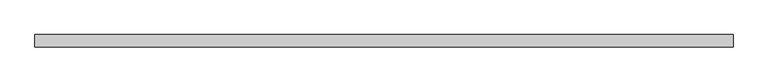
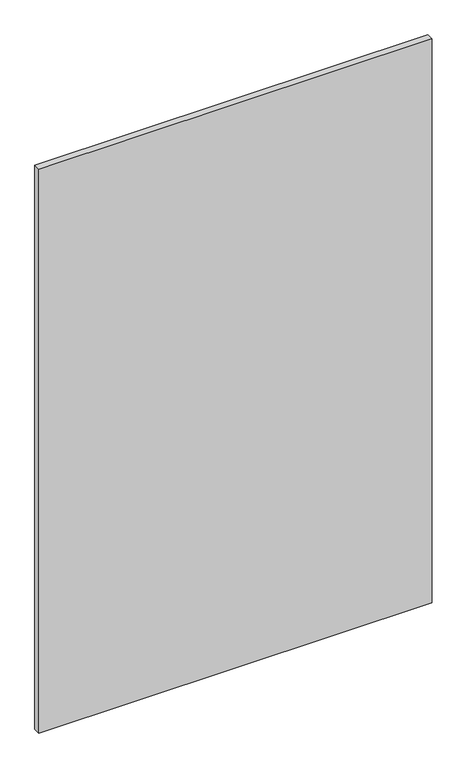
"""IFC4 building model written with IfcOpenShell, lengths in millimetres: plate geometry, 系统嵌板 : 玻璃."""

from ifc_helpers import new_model, si_unit, origin, origin_with_axes, place, context, project, spatial, polyline, outline, extrude, source, transform, mapped, element, save


def plate_297323e3(model_context):
    return source(origin(), model_context, "Body", "SweptSolid", [
        extrude(outline(polyline([(715.7928775, -12.5), (-715.7928775, -12.5), (-715.7928775, 12.5), (715.7928775, 12.5), (715.7928775, -12.5)])), origin_with_axes(), (0.0, 0.0, 1.0), 2170.0),
    ])


if __name__ == "__main__":
    model = new_model("IFC4")
    model_context = context("Model", 3, world=origin())
    ifc_project = project(units=[si_unit("LENGTHUNIT", "METRE", prefix="MILLI")], contexts=[model_context])
    site = spatial("IfcSite", under=ifc_project)
    building = spatial("IfcBuilding", under=site)
    placement = place(None, origin())
    plate_shape = plate_297323e3(model_context)
    element("IfcPlate", 1, ObjectType="系统嵌板 : 玻璃", at=placement, inside=building, context=model_context, shape_type="MappedRepresentation", body=[
        mapped(plate_shape, transform((0.0, 0.0, 0.0), x_axis=(1.0, 0.0, 0.0), y_axis=(0.0, 1.0, 0.0), z_axis=(0.0, 0.0, 1.0))),
    ])
    save(model, "model.ifc")
